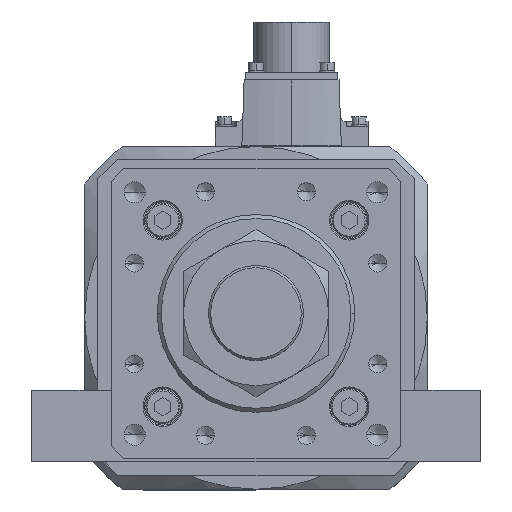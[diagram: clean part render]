
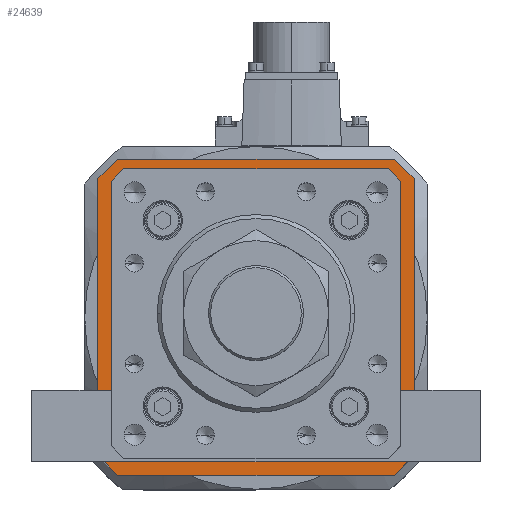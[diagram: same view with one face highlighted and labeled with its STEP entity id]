
A CAD part, top view. The second image highlights one B-rep face of the part: STEP entity #24639.
In plain terms, the highlighted planar face has unit normal (0, 0, 1).
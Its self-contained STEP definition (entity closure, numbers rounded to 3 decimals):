
#96 = LINE ( 'NONE', #33896, #27394 ) ;
#371 = CARTESIAN_POINT ( 'NONE',  ( 60., -52.5, -119. ) ) ;
#499 = CARTESIAN_POINT ( 'NONE',  ( -52.5, 60., -119. ) ) ;
#632 = CARTESIAN_POINT ( 'NONE',  ( -53.646, -49.446, -119. ) ) ;
#649 = VERTEX_POINT ( 'NONE', #18716 ) ;
#726 = FACE_OUTER_BOUND ( 'NONE', #7131, .T. ) ;
#798 = ORIENTED_EDGE ( 'NONE', *, *, #12910, .F. ) ;
#803 = CARTESIAN_POINT ( 'NONE',  ( -49.8, -53.5, -119. ) ) ;
#845 = EDGE_CURVE ( 'NONE', #6493, #28060, #12658, .T. ) ;
#1195 = ORIENTED_EDGE ( 'NONE', *, *, #31213, .F. ) ;
#1604 = LINE ( 'NONE', #632, #3893 ) ;
#1779 = VERTEX_POINT ( 'NONE', #33782 ) ;
#2065 = LINE ( 'NONE', #27172, #35363 ) ;
#2291 = DIRECTION ( 'NONE',  ( -0.707, 0.707, 0. ) ) ;
#2671 = VERTEX_POINT ( 'NONE', #499 ) ;
#3032 = DIRECTION ( 'NONE',  ( -1., 0., 0. ) ) ;
#3165 = ORIENTED_EDGE ( 'NONE', *, *, #845, .F. ) ;
#3443 = VERTEX_POINT ( 'NONE', #34278 ) ;
#3893 = VECTOR ( 'NONE', #12663, 1000. ) ;
#4133 = LINE ( 'NONE', #18278, #8802 ) ;
#4234 = VERTEX_POINT ( 'NONE', #25511 ) ;
#4381 = CARTESIAN_POINT ( 'NONE',  ( -60., 52.5, -119. ) ) ;
#4460 = DIRECTION ( 'NONE',  ( 1., 0., 0. ) ) ;
#4556 = EDGE_CURVE ( 'NONE', #649, #4234, #8416, .T. ) ;
#4751 = CARTESIAN_POINT ( 'NONE',  ( -52.5, 60., -119. ) ) ;
#4831 = EDGE_LOOP ( 'NONE', ( #8148, #27046, #6382, #34974, #10113, #18289, #33507, #22652 ) ) ;
#4874 = CARTESIAN_POINT ( 'NONE',  ( -53.5, -49.593, -119. ) ) ;
#4879 = CARTESIAN_POINT ( 'NONE',  ( 52.5, 60., -119. ) ) ;
#5310 = VERTEX_POINT ( 'NONE', #4879 ) ;
#5376 = CARTESIAN_POINT ( 'NONE',  ( -52.5, -60., -119. ) ) ;
#5693 = VECTOR ( 'NONE', #25425, 1000. ) ;
#5945 = LINE ( 'NONE', #29644, #24958 ) ;
#6382 = ORIENTED_EDGE ( 'NONE', *, *, #16466, .T. ) ;
#6493 = VERTEX_POINT ( 'NONE', #33848 ) ;
#6748 = VECTOR ( 'NONE', #9859, 1000. ) ;
#6775 = LINE ( 'NONE', #26281, #32667 ) ;
#6940 = VERTEX_POINT ( 'NONE', #31147 ) ;
#7051 = ORIENTED_EDGE ( 'NONE', *, *, #22248, .F. ) ;
#7131 = EDGE_LOOP ( 'NONE', ( #8524, #16825, #3165, #36945, #1195, #798, #7051, #20273 ) ) ;
#7167 = EDGE_CURVE ( 'NONE', #8406, #6493, #31815, .T. ) ;
#7508 = VECTOR ( 'NONE', #3032, 1000. ) ;
#7549 = LINE ( 'NONE', #4751, #5693 ) ;
#7677 = CARTESIAN_POINT ( 'NONE',  ( -60., 52.5, -119. ) ) ;
#8148 = ORIENTED_EDGE ( 'NONE', *, *, #18259, .T. ) ;
#8406 = VERTEX_POINT ( 'NONE', #17884 ) ;
#8416 = LINE ( 'NONE', #803, #15847 ) ;
#8524 = ORIENTED_EDGE ( 'NONE', *, *, #19811, .F. ) ;
#8726 = VERTEX_POINT ( 'NONE', #25167 ) ;
#8734 = DIRECTION ( 'NONE',  ( 0.707, 0.707, 0. ) ) ;
#8802 = VECTOR ( 'NONE', #24289, 1000. ) ;
#9430 = DIRECTION ( 'NONE',  ( -0.707, -0.707, 0. ) ) ;
#9859 = DIRECTION ( 'NONE',  ( 0., 1., 0. ) ) ;
#10020 = DIRECTION ( 'NONE',  ( 1., 0., 0. ) ) ;
#10113 = ORIENTED_EDGE ( 'NONE', *, *, #4556, .T. ) ;
#11580 = DIRECTION ( 'NONE',  ( 1., 0., 0. ) ) ;
#11951 = LINE ( 'NONE', #29998, #33630 ) ;
#12245 = CARTESIAN_POINT ( 'NONE',  ( 60., 52.5, -119. ) ) ;
#12434 = EDGE_CURVE ( 'NONE', #20847, #3443, #27070, .T. ) ;
#12453 = CARTESIAN_POINT ( 'NONE',  ( -53.5, 49.8, -119. ) ) ;
#12658 = LINE ( 'NONE', #7677, #36687 ) ;
#12663 = DIRECTION ( 'NONE',  ( -0.707, 0.707, 0. ) ) ;
#12910 = EDGE_CURVE ( 'NONE', #20546, #6940, #14593, .T. ) ;
#12957 = EDGE_CURVE ( 'NONE', #4234, #20847, #1604, .T. ) ;
#13068 = CARTESIAN_POINT ( 'NONE',  ( 49.446, -53.646, -119. ) ) ;
#13906 = DIRECTION ( 'NONE',  ( 0., 1., 0. ) ) ;
#14234 = EDGE_CURVE ( 'NONE', #28060, #2671, #7549, .T. ) ;
#14593 = LINE ( 'NONE', #371, #21037 ) ;
#15075 = EDGE_CURVE ( 'NONE', #8726, #33880, #11951, .T. ) ;
#15250 = EDGE_CURVE ( 'NONE', #23038, #649, #25746, .T. ) ;
#15378 = CARTESIAN_POINT ( 'NONE',  ( 53.5, 49.593, -119. ) ) ;
#15587 = LINE ( 'NONE', #12245, #16083 ) ;
#15847 = VECTOR ( 'NONE', #27681, 1000. ) ;
#16000 = CARTESIAN_POINT ( 'NONE',  ( 53.5, -49.593, -119. ) ) ;
#16083 = VECTOR ( 'NONE', #18239, 1000. ) ;
#16466 = EDGE_CURVE ( 'NONE', #33880, #23038, #2065, .T. ) ;
#16825 = ORIENTED_EDGE ( 'NONE', *, *, #14234, .F. ) ;
#17884 = CARTESIAN_POINT ( 'NONE',  ( -52.5, -60., -119. ) ) ;
#18239 = DIRECTION ( 'NONE',  ( 0.707, -0.707, 0. ) ) ;
#18259 = EDGE_CURVE ( 'NONE', #32473, #8726, #96, .T. ) ;
#18278 = CARTESIAN_POINT ( 'NONE',  ( 60., 52.5, -119. ) ) ;
#18289 = ORIENTED_EDGE ( 'NONE', *, *, #12957, .T. ) ;
#18716 = CARTESIAN_POINT ( 'NONE',  ( 49.593, -53.5, -119. ) ) ;
#19811 = EDGE_CURVE ( 'NONE', #2671, #5310, #5945, .T. ) ;
#20273 = ORIENTED_EDGE ( 'NONE', *, *, #28388, .F. ) ;
#20546 = VERTEX_POINT ( 'NONE', #27117 ) ;
#20847 = VERTEX_POINT ( 'NONE', #4874 ) ;
#21037 = VECTOR ( 'NONE', #9430, 1000. ) ;
#21082 = FACE_BOUND ( 'NONE', #4831, .T. ) ;
#22248 = EDGE_CURVE ( 'NONE', #1779, #20546, #4133, .T. ) ;
#22652 = ORIENTED_EDGE ( 'NONE', *, *, #28949, .T. ) ;
#23038 = VERTEX_POINT ( 'NONE', #16000 ) ;
#23124 = AXIS2_PLACEMENT_3D ( 'NONE', #24885, #34031, #4460 ) ;
#23934 = VECTOR ( 'NONE', #2291, 1000. ) ;
#24289 = DIRECTION ( 'NONE',  ( 0., -1., 0. ) ) ;
#24639 = ADVANCED_FACE ( 'NONE', ( #21082, #726 ), #36752, .T. ) ;
#24885 = CARTESIAN_POINT ( 'NONE',  ( 0., 0., -119. ) ) ;
#24958 = VECTOR ( 'NONE', #11580, 1000. ) ;
#25167 = CARTESIAN_POINT ( 'NONE',  ( 49.593, 53.5, -119. ) ) ;
#25425 = DIRECTION ( 'NONE',  ( 0.707, 0.707, 0. ) ) ;
#25511 = CARTESIAN_POINT ( 'NONE',  ( -49.593, -53.5, -119. ) ) ;
#25746 = LINE ( 'NONE', #13068, #27602 ) ;
#26281 = CARTESIAN_POINT ( 'NONE',  ( -49.446, 53.646, -119. ) ) ;
#27046 = ORIENTED_EDGE ( 'NONE', *, *, #15075, .T. ) ;
#27070 = LINE ( 'NONE', #12453, #6748 ) ;
#27117 = CARTESIAN_POINT ( 'NONE',  ( 60., -52.5, -119. ) ) ;
#27172 = CARTESIAN_POINT ( 'NONE',  ( 53.5, -49.8, -119. ) ) ;
#27384 = CARTESIAN_POINT ( 'NONE',  ( -49.593, 53.5, -119. ) ) ;
#27394 = VECTOR ( 'NONE', #10020, 1000. ) ;
#27602 = VECTOR ( 'NONE', #27650, 1000. ) ;
#27650 = DIRECTION ( 'NONE',  ( -0.707, -0.707, 0. ) ) ;
#27681 = DIRECTION ( 'NONE',  ( -1., 0., 0. ) ) ;
#28060 = VERTEX_POINT ( 'NONE', #4381 ) ;
#28388 = EDGE_CURVE ( 'NONE', #5310, #1779, #15587, .T. ) ;
#28949 = EDGE_CURVE ( 'NONE', #3443, #32473, #6775, .T. ) ;
#29644 = CARTESIAN_POINT ( 'NONE',  ( 52.5, 60., -119. ) ) ;
#29678 = CARTESIAN_POINT ( 'NONE',  ( 52.5, -60., -119. ) ) ;
#29998 = CARTESIAN_POINT ( 'NONE',  ( 53.646, 49.446, -119. ) ) ;
#30032 = DIRECTION ( 'NONE',  ( 0., -1., 0. ) ) ;
#30160 = LINE ( 'NONE', #29678, #7508 ) ;
#31147 = CARTESIAN_POINT ( 'NONE',  ( 52.5, -60., -119. ) ) ;
#31213 = EDGE_CURVE ( 'NONE', #6940, #8406, #30160, .T. ) ;
#31815 = LINE ( 'NONE', #5376, #23934 ) ;
#32473 = VERTEX_POINT ( 'NONE', #27384 ) ;
#32667 = VECTOR ( 'NONE', #8734, 1000. ) ;
#33507 = ORIENTED_EDGE ( 'NONE', *, *, #12434, .T. ) ;
#33630 = VECTOR ( 'NONE', #35789, 1000. ) ;
#33782 = CARTESIAN_POINT ( 'NONE',  ( 60., 52.5, -119. ) ) ;
#33848 = CARTESIAN_POINT ( 'NONE',  ( -60., -52.5, -119. ) ) ;
#33880 = VERTEX_POINT ( 'NONE', #15378 ) ;
#33896 = CARTESIAN_POINT ( 'NONE',  ( 49.8, 53.5, -119. ) ) ;
#34031 = DIRECTION ( 'NONE',  ( 0., 0., 1. ) ) ;
#34278 = CARTESIAN_POINT ( 'NONE',  ( -53.5, 49.593, -119. ) ) ;
#34974 = ORIENTED_EDGE ( 'NONE', *, *, #15250, .T. ) ;
#35363 = VECTOR ( 'NONE', #30032, 1000. ) ;
#35789 = DIRECTION ( 'NONE',  ( 0.707, -0.707, 0. ) ) ;
#36687 = VECTOR ( 'NONE', #13906, 1000. ) ;
#36752 = PLANE ( 'NONE',  #23124 ) ;
#36945 = ORIENTED_EDGE ( 'NONE', *, *, #7167, .F. ) ;
